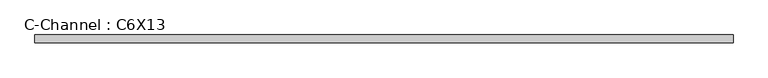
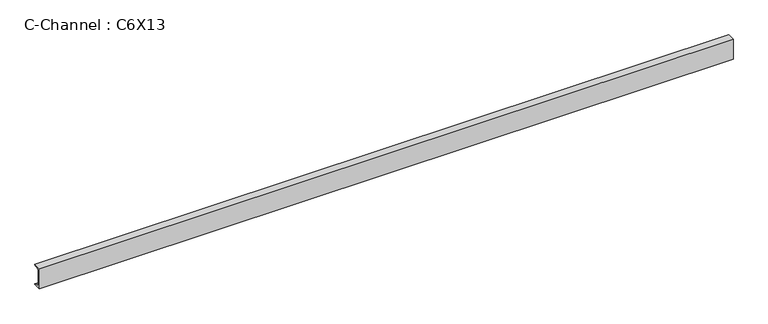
"""IFC4 building model written with IfcOpenShell, lengths in millimetres: beam geometry, C-Channel : C6X13."""

from ifc_helpers import new_model, si_unit, point, frame, frame_2d, origin, place, context, project, spatial, polyline, circle_curve, trimmed, segment, composite_curve, outline, extrude, source, transform, mapped, element, save


def c_channel_c6x13_c897e373(model_context):
    return source(origin(), model_context, "Body", "SweptSolid", [
        extrude(outline(composite_curve([segment(polyline([(-13.0556, 76.2), (41.8084, 76.2)]), True, "CONTINUOUS"), segment(trimmed(circle_curve(frame_2d((33.0962, 76.2)), 8.7122), [point((41.8084, 76.2))], [point((33.0962, 67.4878))], False, "CARTESIAN"), True, "CONTINUOUS"), segment(polyline([(33.0962, 67.4878), (-1.9558, 61.9361086), (-1.9558, -61.9361086), (33.0962, -67.4878)]), True, "CONTINUOUS"), segment(trimmed(circle_curve(frame_2d((33.0962, -76.2)), 8.7122), [point((33.0962, -67.4878))], [point((41.8084, -76.2))], False, "CARTESIAN"), True, "CONTINUOUS"), segment(polyline([(41.8084, -76.2), (-13.0556, -76.2), (-13.0556, 76.2)]), True, "CONTINUOUS")], self_intersect=False)), frame((-2487.3009793, 0.0, 0.0), z_axis=(1.0, 0.0, 0.0), x_axis=(0.0, 1.0, 0.0)), (0.0, 0.0, 1.0), 4974.5861507),
    ])


if __name__ == "__main__":
    model = new_model("IFC4")
    model_context = context("Model", 3, world=origin())
    ifc_project = project(units=[si_unit("LENGTHUNIT", "METRE", prefix="MILLI")], contexts=[model_context])
    site = spatial("IfcSite", under=ifc_project)
    building = spatial("IfcBuilding", under=site)
    placement = place(None, origin())
    c_channel_c6x13_shape = c_channel_c6x13_c897e373(model_context)
    element("IfcBeam", 1, ObjectType="C-Channel : C6X13", at=placement, inside=building, context=model_context, shape_type="MappedRepresentation", body=[
        mapped(c_channel_c6x13_shape, transform((0.0, 0.0, 0.0), x_axis=(1.0, 0.0, 0.0), y_axis=(0.0, 1.0, 0.0), z_axis=(0.0, 0.0, 1.0))),
    ])
    save(model, "model.ifc")
